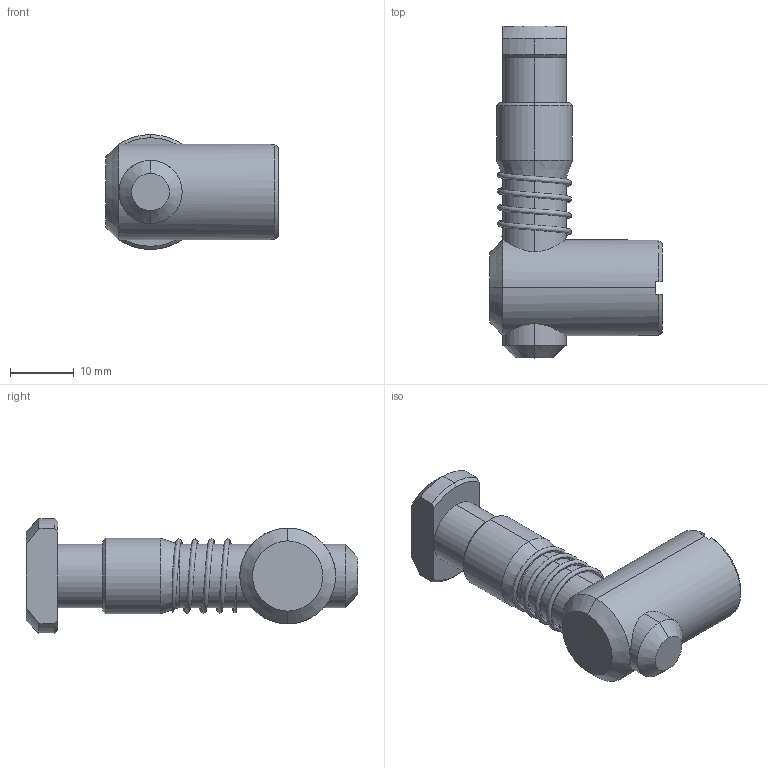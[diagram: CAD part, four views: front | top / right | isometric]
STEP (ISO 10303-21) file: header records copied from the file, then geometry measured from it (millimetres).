
FILE_DESCRIPTION (( 'STEP AP214' ), '1' );
FILE_NAME ('2.04.spsc.STEP', '2015-05-30T09:38:56', ( '' ), ( '' ), 'SwSTEP 2.0', 'SolidWorks 2015', '' );
FILE_SCHEMA (( 'AUTOMOTIVE_DESIGN' ));
Length unit declared in the file: millimetre
Products named in the file (1): 2.04.spsc
Bounding box: 27 x 52 x 18 mm (x, y, z)
Surface area: 4708.9 mm2 (no closed solid volume)
Topology: 0 solids, 4 shells, 68 faces, 169 edges, 106 vertices
Faces by surface type: plane 31, cone 20, cylinder 15, bspline 2
Entity records: 3966 total; most frequent: CARTESIAN_POINT 2346, ORIENTED_EDGE 326, DIRECTION 322, EDGE_CURVE 167, AXIS2_PLACEMENT_3D 120, VERTEX_POINT 106, VECTOR 82, LINE 82
